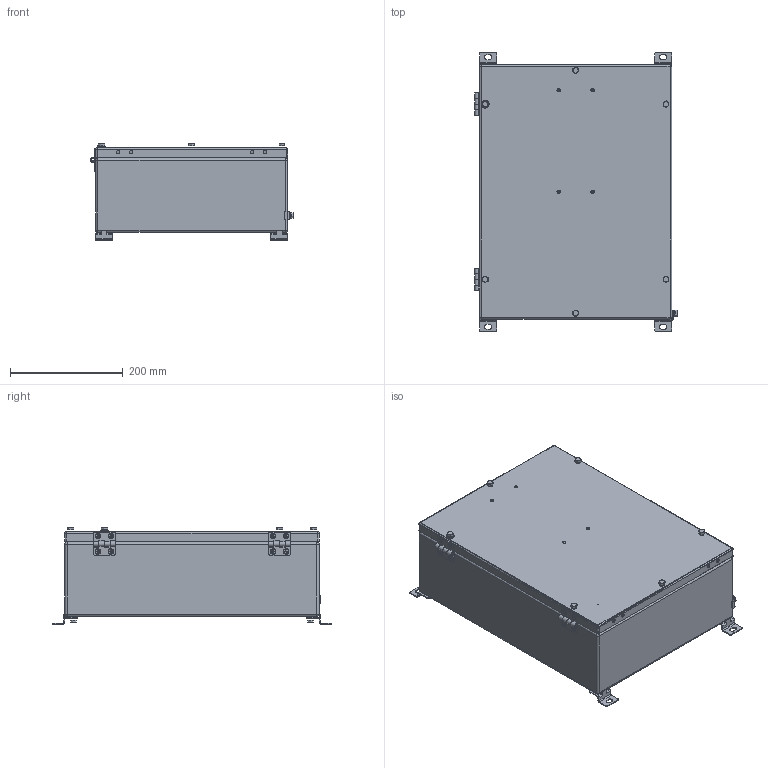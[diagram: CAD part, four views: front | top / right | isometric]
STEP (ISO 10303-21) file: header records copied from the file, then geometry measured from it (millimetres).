
FILE_DESCRIPTION((''),'2;1');
FILE_NAME('\\192.168.5.25\cortem_klient\INVENTOR БАЗА МОДЕЛЕЙ\Актуальная база моделей для отдела продаж\КСРВ-М\КСРВ-М453415_М3.stp','2019-04-09T14:45:00',('A.S.Kozlov'),(''),'Autodesk Inventor 2012','Autodesk Inventor 2012','');
FILE_SCHEMA(('CONFIG_CONTROL_DESIGN'));
Length unit declared in the file: millimetre
Products named in the file (1): КСРВ-(параметрическая модель)_Внешний контур_1
Bounding box: 359.19 x 494 x 171.2 mm (x, y, z)
Surface area: 780287.4 mm2 (no closed solid volume)
Topology: 0 solids, 72 shells, 290 faces, 1235 edges, 945 vertices
Faces by surface type: plane 175, cylinder 95, sphere 12, cone 8
Full cylindrical faces by diameter (mm): 5.9 x4, 6.1 x1, 10 x4, 12 x1, 14 x1
Entity records: 13099 total; most frequent: CARTESIAN_POINT 2621, DIRECTION 2120, ORIENTED_EDGE 1620, EDGE_CURVE 1203, VERTEX_POINT 935, AXIS2_PLACEMENT_3D 722, VECTOR 676, LINE 676
